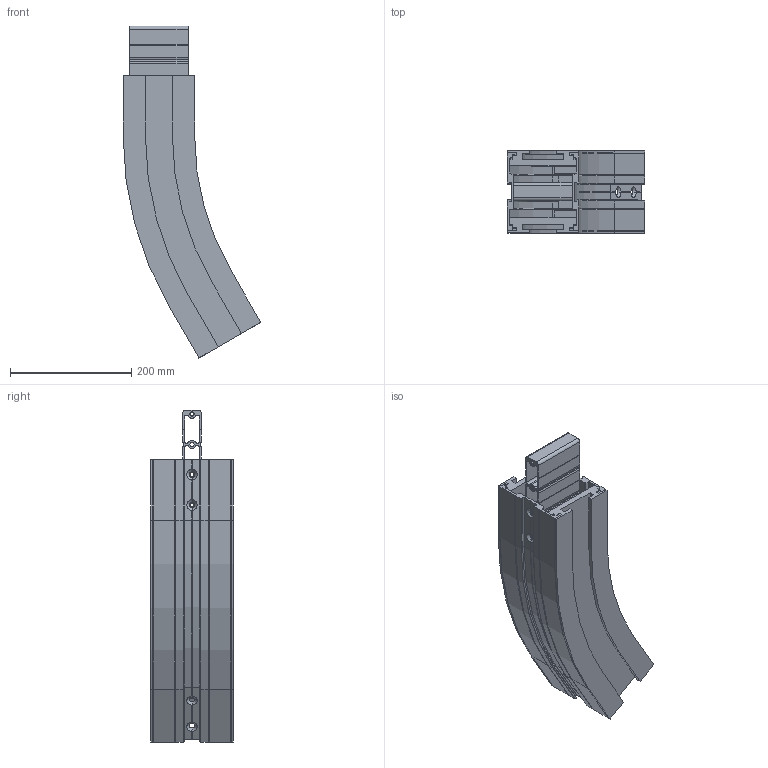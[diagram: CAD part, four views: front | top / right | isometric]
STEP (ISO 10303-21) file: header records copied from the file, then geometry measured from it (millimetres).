
FILE_DESCRIPTION (( 'STEP AP203' ), '1' );
FILE_NAME ('R3C500-30.STEP', '2009-01-13T08:23:43', ( 'faber' ), ( '' ), 'SwSTEP 2.0', 'SolidWorks 2008', '' );
FILE_SCHEMA (( 'CONFIG_CONTROL_DESIGN' ));
Length unit declared in the file: millimetre
Products named in the file (1): R3C500-30
Bounding box: 227.08 x 136 x 547.85 mm (x, y, z)
Surface area: 623781.9 mm2 (no closed solid volume)
Topology: 0 solids, 9 shells, 437 faces, 1555 edges, 1074 vertices
Faces by surface type: plane 215, cylinder 180, cone 24, torus 18
Entity records: 16658 total; most frequent: CARTESIAN_POINT 3163, DIRECTION 2907, ORIENTED_EDGE 2562, EDGE_CURVE 1555, VERTEX_POINT 1074, VECTOR 1015, LINE 1015, AXIS2_PLACEMENT_3D 946
